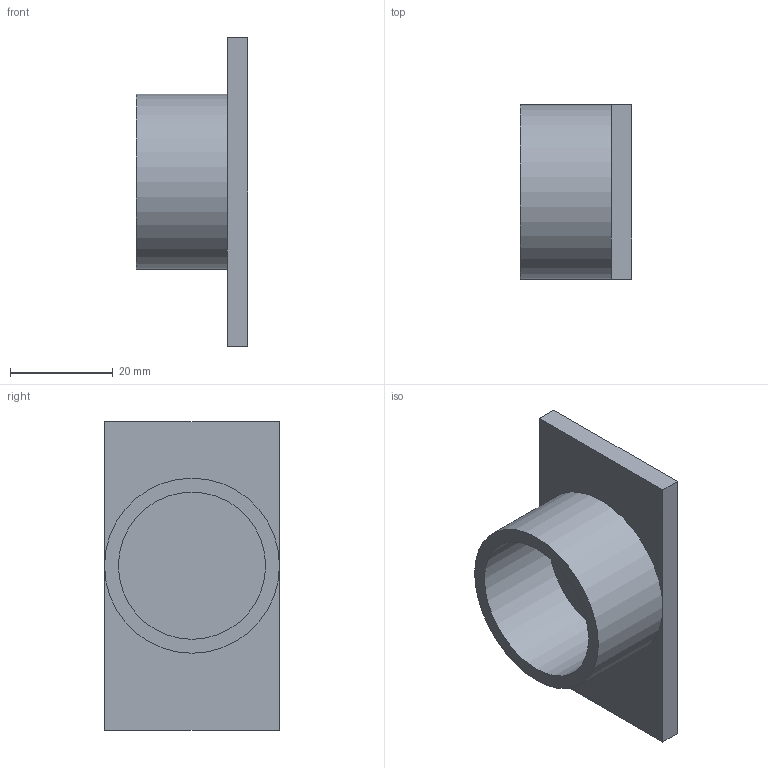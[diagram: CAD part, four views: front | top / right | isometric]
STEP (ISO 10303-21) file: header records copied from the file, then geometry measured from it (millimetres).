
FILE_DESCRIPTION(('FreeCAD Model'),'2;1');
FILE_NAME('Open CASCADE Shape Model','2026-10-31T13:49:49',('FreeCAD'),( 'FreeCAD'),'Open CASCADE STEP processor 7.8','FreeCAD','Unknown');
FILE_SCHEMA(('AUTOMOTIVE_DESIGN { 1 0 10303 214 1 1 1 1 }'));
Length unit declared in the file: millimetre
Products named in the file (1): Open CASCADE STEP translator 7.8 12
Bounding box: 21.7 x 34 x 60 mm (x, y, z)
Volume: 12859.3 mm3; surface area: 8312.9 mm2
Topology: 1 solids, 1 shells, 11 faces, 22 edges, 14 vertices
Faces by surface type: plane 9, cylinder 2
Full cylindrical faces by diameter (mm): 28.6 x1, 34 x1
Entity records: 296 total; most frequent: DIRECTION 52, CARTESIAN_POINT 48, ORIENTED_EDGE 44, EDGE_CURVE 22, AXIS2_PLACEMENT_3D 18, LINE 16, VECTOR 16, VERTEX_POINT 14
